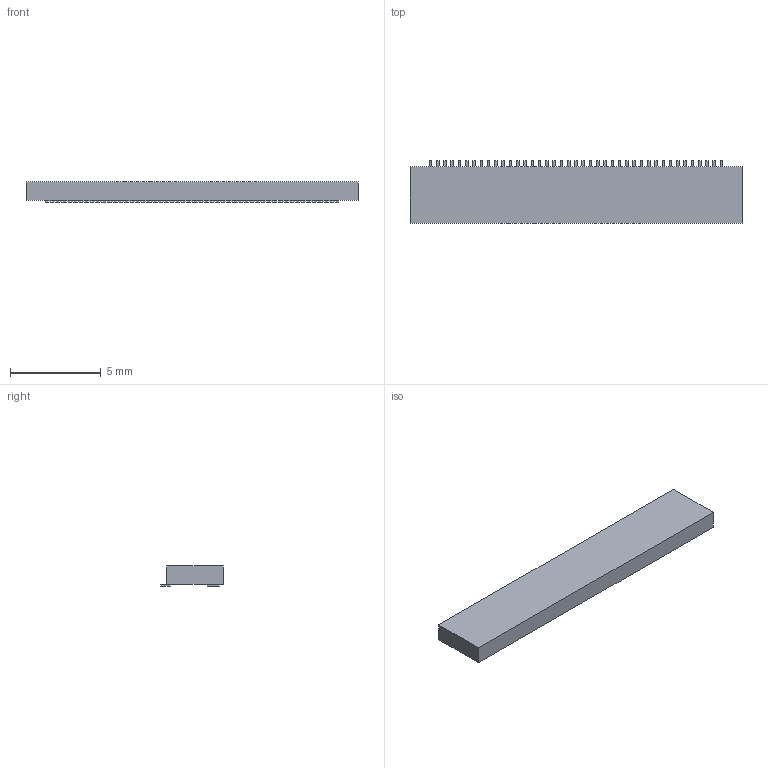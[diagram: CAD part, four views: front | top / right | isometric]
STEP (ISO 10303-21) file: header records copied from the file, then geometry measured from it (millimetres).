
FILE_DESCRIPTION(('FreeCAD Model'),'2;1');
FILE_NAME('/var/www/3D/0T/1237746.1.2.stp','2020-04-10T01:24:49',( 'Author'),(''),'Open CASCADE STEP processor 6.9','FreeCAD','Unknown' );
FILE_SCHEMA(('AUTOMOTIVE_DESIGN { 1 0 10303 214 1 1 1 1 }'));
Length unit declared in the file: millimetre
Products named in the file (3): ASSEMBLY; Body; Pins
Assembly tree (2 placements, depth 2):
  ASSEMBLY
    Body
    Pins
Bounding box: 18.25 x 3.43 x 1.1 mm (x, y, z)
Volume: 57.3 mm3; surface area: 181.4 mm2
Topology: 82 solids, 82 shells, 492 faces, 984 edges, 656 vertices
Faces by surface type: plane 492
Entity records: 25886 total; most frequent: CARTESIAN_POINT 4103, DIRECTION 3942, LINE 2952, VECTOR 2952, ORIENTED_EDGE 1968, PCURVE 1968, DEFINITIONAL_REPRESENTATION 1968, EDGE_CURVE 984
